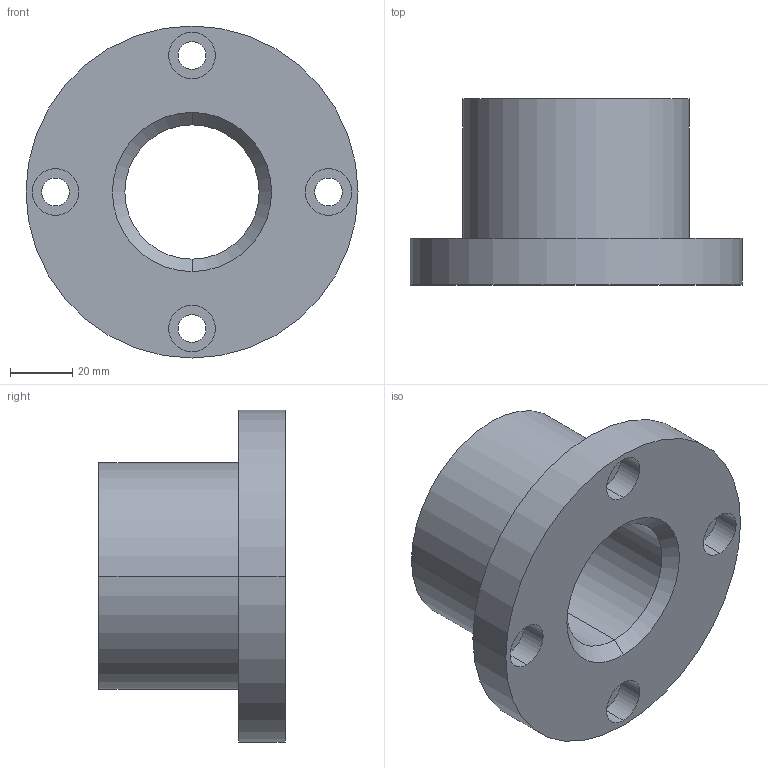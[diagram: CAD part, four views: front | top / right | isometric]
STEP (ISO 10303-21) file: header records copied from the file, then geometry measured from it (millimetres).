
FILE_DESCRIPTION (( 'STEP AP214' ), '1' );
FILE_NAME ('TH-52B.step', '2021-03-18T07:42:06', ( '' ), ( '' ), 'SwSTEP 2.0', 'SolidWorks 2019', '' );
FILE_SCHEMA (( 'AUTOMOTIVE_DESIGN' ));
Length unit declared in the file: millimetre
Products named in the file (2): TH-52B
Bounding box: 107 x 60 x 107 mm (x, y, z)
Volume: 224852.5 mm3; surface area: 39803.3 mm2
Topology: 1 solids, 1 shells, 33 faces, 74 edges, 48 vertices
Faces by surface type: cylinder 22, plane 7, cone 4
Entity records: 1013 total; most frequent: DIRECTION 192, CARTESIAN_POINT 157, ORIENTED_EDGE 148, AXIS2_PLACEMENT_3D 83, EDGE_CURVE 74, VERTEX_POINT 48, EDGE_LOOP 48, CIRCLE 48
